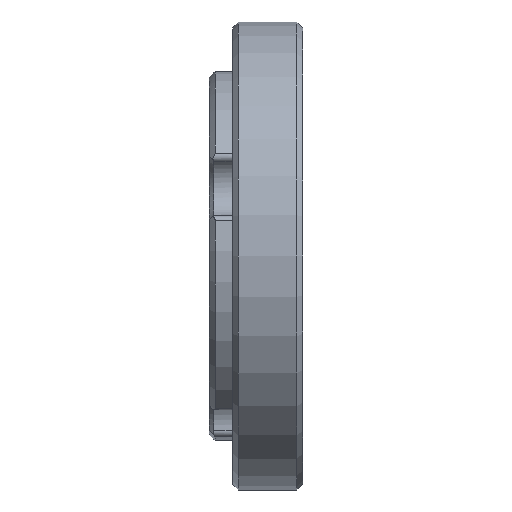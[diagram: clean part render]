
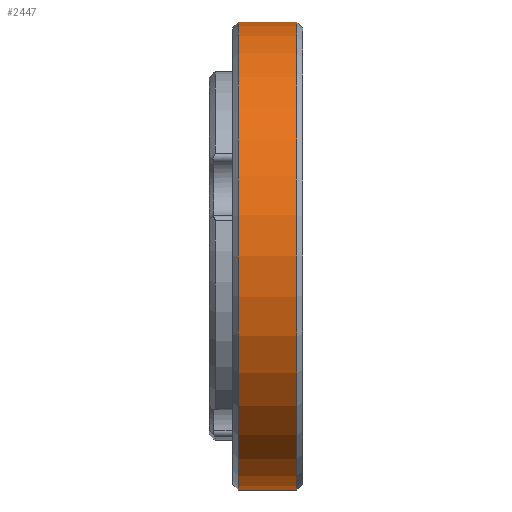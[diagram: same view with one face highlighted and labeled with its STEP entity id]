
A CAD part, left-side view. The second image highlights one B-rep face of the part: STEP entity #2447.
In plain terms, the highlighted cylindrical face has radius 40 mm (diameter 80 mm), a partial arc.
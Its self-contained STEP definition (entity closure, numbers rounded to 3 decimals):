
#78 = ORIENTED_EDGE ( 'NONE', *, *, #1881, .T. ) ;
#286 = AXIS2_PLACEMENT_3D ( 'NONE', #3872, #1544, #761 ) ;
#309 = EDGE_CURVE ( 'NONE', #3930, #326, #1916, .T. ) ;
#326 = VERTEX_POINT ( 'NONE', #882 ) ;
#329 = AXIS2_PLACEMENT_3D ( 'NONE', #2687, #377, #1936 ) ;
#377 = DIRECTION ( 'NONE',  ( 0., -1., 0. ) ) ;
#480 = VERTEX_POINT ( 'NONE', #606 ) ;
#531 = ORIENTED_EDGE ( 'NONE', *, *, #309, .T. ) ;
#532 = CARTESIAN_POINT ( 'NONE',  ( 0., 16., -40. ) ) ;
#606 = CARTESIAN_POINT ( 'NONE',  ( 0., 1., -40. ) ) ;
#743 = EDGE_LOOP ( 'NONE', ( #1297, #531, #78, #1670 ) ) ;
#761 = DIRECTION ( 'NONE',  ( 0., 0., 1. ) ) ;
#882 = CARTESIAN_POINT ( 'NONE',  ( 0., 11., -40. ) ) ;
#913 = LINE ( 'NONE', #532, #2652 ) ;
#943 = VECTOR ( 'NONE', #1494, 1000. ) ;
#1065 = LINE ( 'NONE', #1774, #943 ) ;
#1158 = CYLINDRICAL_SURFACE ( 'NONE', #329, 40. ) ;
#1297 = ORIENTED_EDGE ( 'NONE', *, *, #1493, .F. ) ;
#1340 = DIRECTION ( 'NONE',  ( 0., 0., 1. ) ) ;
#1493 = EDGE_CURVE ( 'NONE', #3930, #4045, #1065, .T. ) ;
#1494 = DIRECTION ( 'NONE',  ( 0., -1., 0. ) ) ;
#1544 = DIRECTION ( 'NONE',  ( 0., 1., 0. ) ) ;
#1652 = EDGE_CURVE ( 'NONE', #480, #4045, #3889, .T. ) ;
#1670 = ORIENTED_EDGE ( 'NONE', *, *, #1652, .T. ) ;
#1674 = AXIS2_PLACEMENT_3D ( 'NONE', #4774, #3943, #1340 ) ;
#1774 = CARTESIAN_POINT ( 'NONE',  ( 0., 16., 40. ) ) ;
#1881 = EDGE_CURVE ( 'NONE', #326, #480, #913, .T. ) ;
#1916 = CIRCLE ( 'NONE', #1674, 40. ) ;
#1936 = DIRECTION ( 'NONE',  ( 0., 0., -1. ) ) ;
#2067 = DIRECTION ( 'NONE',  ( 0., -1., 0. ) ) ;
#2363 = FACE_OUTER_BOUND ( 'NONE', #743, .T. ) ;
#2447 = ADVANCED_FACE ( 'NONE', ( #2363 ), #1158, .T. ) ;
#2536 = CARTESIAN_POINT ( 'NONE',  ( 0., 11., 40. ) ) ;
#2652 = VECTOR ( 'NONE', #2067, 1000. ) ;
#2687 = CARTESIAN_POINT ( 'NONE',  ( 0., 16., 0. ) ) ;
#3455 = CARTESIAN_POINT ( 'NONE',  ( 0., 1., 40. ) ) ;
#3872 = CARTESIAN_POINT ( 'NONE',  ( 0., 1., 0. ) ) ;
#3889 = CIRCLE ( 'NONE', #286, 40. ) ;
#3930 = VERTEX_POINT ( 'NONE', #2536 ) ;
#3943 = DIRECTION ( 'NONE',  ( 0., -1., 0. ) ) ;
#4045 = VERTEX_POINT ( 'NONE', #3455 ) ;
#4774 = CARTESIAN_POINT ( 'NONE',  ( 0., 11., 0. ) ) ;
